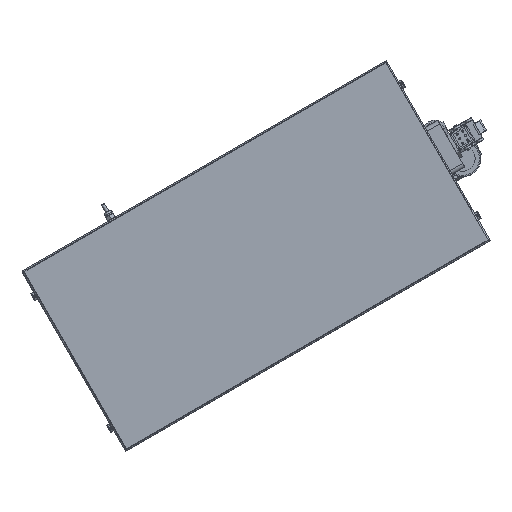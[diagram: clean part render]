
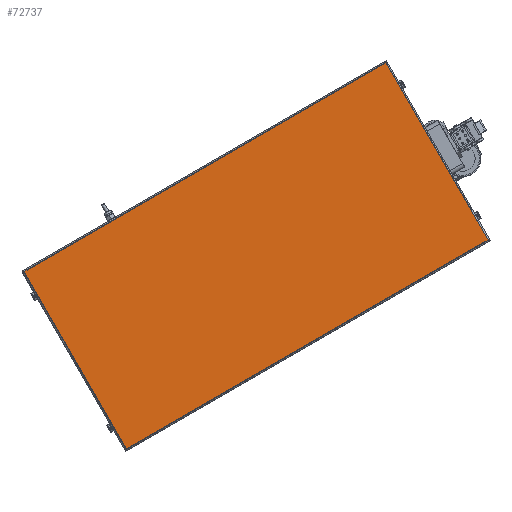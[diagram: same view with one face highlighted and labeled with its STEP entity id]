
A CAD part, top view. The second image highlights one B-rep face of the part: STEP entity #72737.
In plain terms, the highlighted planar face has unit normal (0, 0, 1).
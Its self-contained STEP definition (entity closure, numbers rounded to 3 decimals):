
#92 = PLANE ( 'NONE',  #48559 ) ;
#900 = CARTESIAN_POINT ( 'NONE',  ( 263.668, 292.814, 959.5 ) ) ;
#2364 = LINE ( 'NONE', #67293, #12148 ) ;
#3740 = VECTOR ( 'NONE', #46929, 1000. ) ;
#7739 = EDGE_CURVE ( 'NONE', #21836, #44459, #11844, .T. ) ;
#7865 = DIRECTION ( 'NONE',  ( -0.5, 0.866, 0. ) ) ;
#9704 = ORIENTED_EDGE ( 'NONE', *, *, #16976, .T. ) ;
#11740 = FACE_OUTER_BOUND ( 'NONE', #17194, .T. ) ;
#11844 = LINE ( 'NONE', #24218, #42592 ) ;
#12148 = VECTOR ( 'NONE', #49845, 1000. ) ;
#12149 = CARTESIAN_POINT ( 'NONE',  ( 384.735, 82.119, 959.5 ) ) ;
#15111 = VERTEX_POINT ( 'NONE', #52033 ) ;
#16976 = EDGE_CURVE ( 'NONE', #15111, #65480, #51984, .T. ) ;
#17194 = EDGE_LOOP ( 'NONE', ( #9704, #72518, #44493, #27403 ) ) ;
#21836 = VERTEX_POINT ( 'NONE', #12149 ) ;
#23216 = CARTESIAN_POINT ( 'NONE',  ( -167.363, 43.381, 959.5 ) ) ;
#24218 = CARTESIAN_POINT ( 'NONE',  ( 262.485, 293.863, 959.5 ) ) ;
#27403 = ORIENTED_EDGE ( 'NONE', *, *, #44966, .T. ) ;
#34302 = CARTESIAN_POINT ( 'NONE',  ( 263.485, 292.131, 959.5 ) ) ;
#42592 = VECTOR ( 'NONE', #46567, 1000. ) ;
#43352 = DIRECTION ( 'NONE',  ( 0., 0., 1. ) ) ;
#44459 = VERTEX_POINT ( 'NONE', #34302 ) ;
#44493 = ORIENTED_EDGE ( 'NONE', *, *, #7739, .T. ) ;
#44810 = EDGE_CURVE ( 'NONE', #65480, #21836, #2364, .T. ) ;
#44966 = EDGE_CURVE ( 'NONE', #44459, #15111, #46700, .T. ) ;
#45480 = CARTESIAN_POINT ( 'NONE',  ( -44.381, -165.631, 959.5 ) ) ;
#46567 = DIRECTION ( 'NONE',  ( -0.5, 0.866, 0. ) ) ;
#46700 = LINE ( 'NONE', #23216, #54035 ) ;
#46929 = DIRECTION ( 'NONE',  ( 0.5, -0.866, 0. ) ) ;
#48559 = AXIS2_PLACEMENT_3D ( 'NONE', #900, #43352, #7865 ) ;
#49845 = DIRECTION ( 'NONE',  ( 0.866, 0.5, 0. ) ) ;
#51984 = LINE ( 'NONE', #52375, #3740 ) ;
#52033 = CARTESIAN_POINT ( 'NONE',  ( -165.631, 44.381, 959.5 ) ) ;
#52375 = CARTESIAN_POINT ( 'NONE',  ( -43.381, -167.363, 959.5 ) ) ;
#54035 = VECTOR ( 'NONE', #64216, 1000. ) ;
#64216 = DIRECTION ( 'NONE',  ( -0.866, -0.5, 0. ) ) ;
#65480 = VERTEX_POINT ( 'NONE', #45480 ) ;
#67293 = CARTESIAN_POINT ( 'NONE',  ( 386.467, 83.119, 959.5 ) ) ;
#72518 = ORIENTED_EDGE ( 'NONE', *, *, #44810, .T. ) ;
#72737 = ADVANCED_FACE ( 'NONE', ( #11740 ), #92, .T. ) ;
